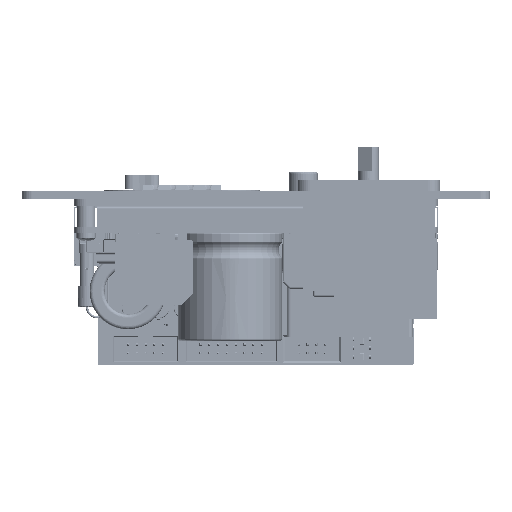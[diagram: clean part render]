
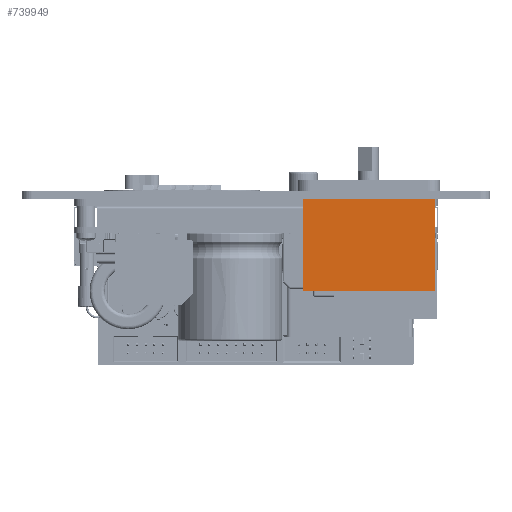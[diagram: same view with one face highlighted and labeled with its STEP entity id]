
A CAD part, front view. The second image highlights one B-rep face of the part: STEP entity #739949.
In plain terms, the highlighted planar face has unit normal (0, -1, 0) as drawn and (1, 0, 0) by its records, which use the part's own axes.
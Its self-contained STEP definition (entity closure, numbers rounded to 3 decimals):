
#32057 = ORIENTED_EDGE ( 'NONE', *, *, #1024671, .F. ) ;
#41598 = LINE ( 'NONE', #873706, #525043 ) ;
#104546 = LINE ( 'NONE', #167126, #630151 ) ;
#159896 = PLANE ( 'NONE',  #305565 ) ;
#167126 = CARTESIAN_POINT ( 'NONE',  ( 13.45, -19., -31.9 ) ) ;
#230376 = EDGE_CURVE ( 'NONE', #1062223, #233543, #780094, .T. ) ;
#233543 = VERTEX_POINT ( 'NONE', #700380 ) ;
#239604 = DIRECTION ( 'NONE',  ( 0., 0., 1. ) ) ;
#287428 = EDGE_CURVE ( 'NONE', #1062223, #585636, #362327, .T. ) ;
#305422 = VECTOR ( 'NONE', #438245, 1000. ) ;
#305565 = AXIS2_PLACEMENT_3D ( 'NONE', #887300, #513784, #239604 ) ;
#314983 = ORIENTED_EDGE ( 'NONE', *, *, #876420, .T. ) ;
#331173 = ORIENTED_EDGE ( 'NONE', *, *, #287428, .F. ) ;
#362327 = LINE ( 'NONE', #979351, #305422 ) ;
#423491 = EDGE_LOOP ( 'NONE', ( #314983, #32057, #331173, #528892 ) ) ;
#438245 = DIRECTION ( 'NONE',  ( 0., -1., 0. ) ) ;
#509853 = DIRECTION ( 'NONE',  ( 0., 0., 1. ) ) ;
#513784 = DIRECTION ( 'NONE',  ( -1., 0., 0. ) ) ;
#525043 = VECTOR ( 'NONE', #607072, 1000. ) ;
#528892 = ORIENTED_EDGE ( 'NONE', *, *, #230376, .T. ) ;
#585636 = VERTEX_POINT ( 'NONE', #759273 ) ;
#607072 = DIRECTION ( 'NONE',  ( 0., -1., 0. ) ) ;
#630151 = VECTOR ( 'NONE', #982371, 1000. ) ;
#660061 = FACE_OUTER_BOUND ( 'NONE', #423491, .T. ) ;
#673291 = CARTESIAN_POINT ( 'NONE',  ( 13.45, -19., -3. ) ) ;
#676789 = CARTESIAN_POINT ( 'NONE',  ( 13.45, 19., -31.9 ) ) ;
#700380 = CARTESIAN_POINT ( 'NONE',  ( 13.45, 19., -3. ) ) ;
#734708 = CARTESIAN_POINT ( 'NONE',  ( 13.45, 19., -31.9 ) ) ;
#739949 = ADVANCED_FACE ( 'NONE', ( #660061 ), #159896, .F. ) ;
#759273 = CARTESIAN_POINT ( 'NONE',  ( 13.45, -19., -31.9 ) ) ;
#780094 = LINE ( 'NONE', #676789, #1150261 ) ;
#873706 = CARTESIAN_POINT ( 'NONE',  ( 13.45, -19., -3. ) ) ;
#876420 = EDGE_CURVE ( 'NONE', #233543, #1102487, #41598, .T. ) ;
#887300 = CARTESIAN_POINT ( 'NONE',  ( 13.45, -19., -31.9 ) ) ;
#979351 = CARTESIAN_POINT ( 'NONE',  ( 13.45, -19., -31.9 ) ) ;
#982371 = DIRECTION ( 'NONE',  ( 0., 0., 1. ) ) ;
#1024671 = EDGE_CURVE ( 'NONE', #585636, #1102487, #104546, .T. ) ;
#1062223 = VERTEX_POINT ( 'NONE', #734708 ) ;
#1102487 = VERTEX_POINT ( 'NONE', #673291 ) ;
#1150261 = VECTOR ( 'NONE', #509853, 1000. ) ;
